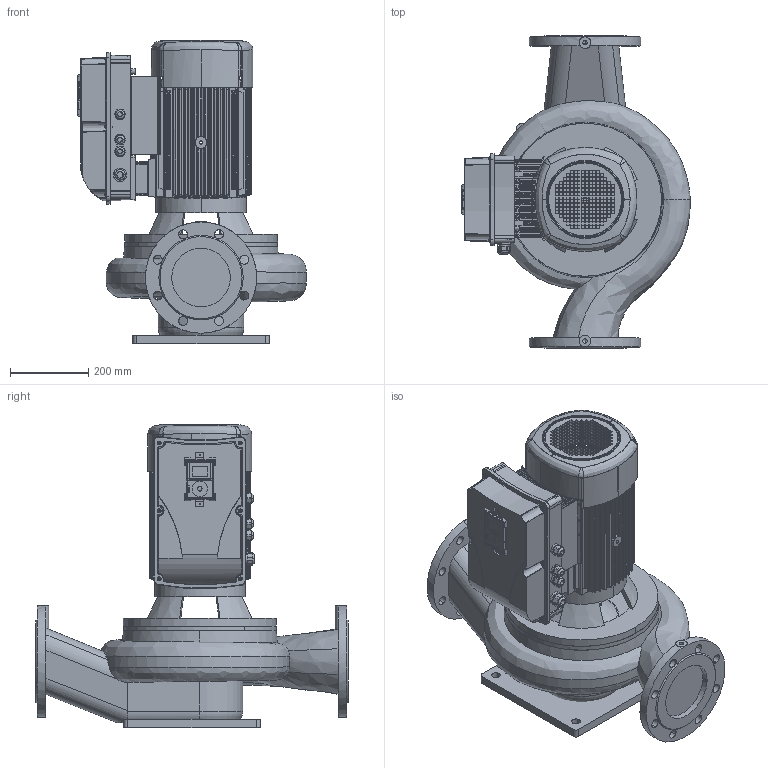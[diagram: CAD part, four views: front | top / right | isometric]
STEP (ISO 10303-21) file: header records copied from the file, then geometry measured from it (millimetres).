
FILE_DESCRIPTION(('STEP AP214'),'1');
FILE_NAME('export.stp','2018-08-09T07:30:15',(' '),(' '),'Spatial InterOp 3D',' ',' ');
FILE_SCHEMA(('AUTOMOTIVE_DESIGN { 1 0 10303 214 1 1 1 1 }'));
Length unit declared in the file: millimetre
Products named in the file (28): W_ALP11534750KPVS; V_TLL100SAL1202; V_PPALP1153; PPALP1153_Kesken; Tukijalka_ALP1128; V_EKF31OKN132133; MS3_Vac20CP_KP134; P101415; P101409; R200882; P101462; Piirilevyn_pala; A2004-2-4-LP-N-R; P101414; Vacon_Display; CAD-3D-VACON-M100-Display.sldasm; Vacon_display_pla; Vacon_display_scr; R201240; DIN_7985-M5x10; M20_tiivisteholkk; M25_tiivisteholkk; G43699; P101416; DIN_965-M5x16; DIN_7985-M5x20; DIN_7985-M4x16; DIN_7985-M5x60
Assembly tree (45 placements, depth 4):
  W_ALP11534750KPVS
    V_TLL100SAL1202
    V_PPALP1153
      PPALP1153_Kesken
      Tukijalka_ALP1128
    V_EKF31OKN132133
    MS3_Vac20CP_KP134
      P101415
      P101409
      R200882
      P101462
        Piirilevyn_pala
        A2004-2-4-LP-N-R  x2
      P101414
      Vacon_Display
        CAD-3D-VACON-M100-Display.sldasm
        Vacon_display_pla
        Vacon_display_scr
      R201240
      DIN_7985-M5x10  x6
      M20_tiivisteholkk  x3
      M25_tiivisteholkk
      G43699  x3
      P101416
      DIN_965-M5x16  x4
      DIN_7985-M5x20  x2
      DIN_7985-M4x16  x2
      DIN_7985-M5x60  x4
Bounding box: 586.25 x 800 x 778.49 mm (x, y, z)
Volume: 48046337.4 mm3; surface area: 4793054.7 mm2
Topology: 40 solids, 1513 shells, 5344 faces, 18332 edges, 14573 vertices
Faces by surface type: plane 2102, bspline 1552, cylinder 1161, cone 292, torus 192, sphere 45
Entity records: 241214 total; most frequent: CARTESIAN_POINT 84148, ORIENTED_EDGE 26132, DIRECTION 17434, EDGE_CURVE 16888, VERTEX_POINT 13707, B_SPLINE_CURVE_WITH_KNOTS 7172, AXIS2_PLACEMENT_3D 5813, LINE 5808
